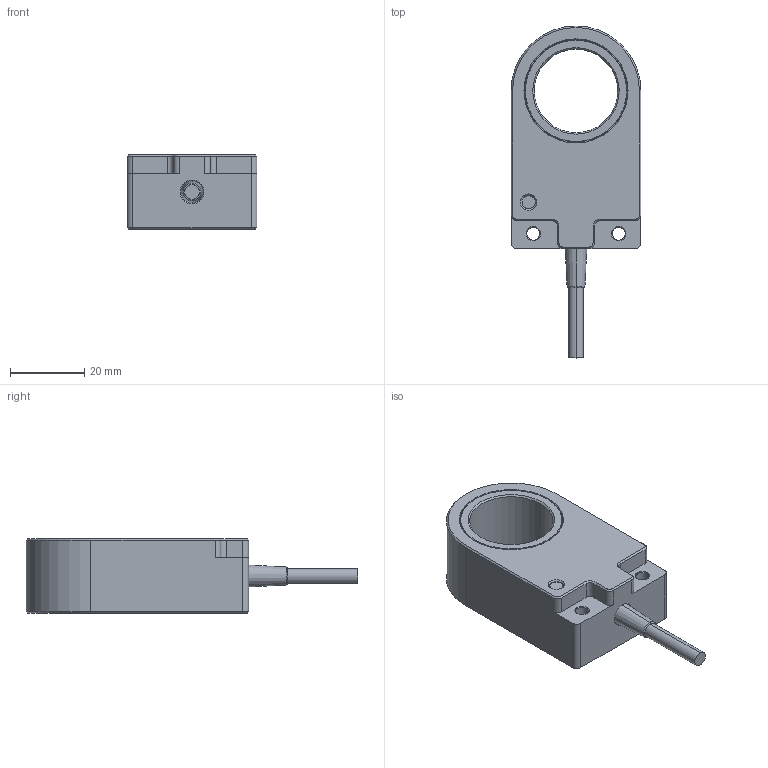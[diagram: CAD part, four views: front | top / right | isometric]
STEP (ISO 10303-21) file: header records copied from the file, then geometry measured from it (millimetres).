
FILE_DESCRIPTION (( 'STEP AP203' ), '1' );
FILE_NAME ('TH21.STEP', '2016-06-30T08:07:59', ( '' ), ( '' ), 'SwSTEP 2.0', 'SolidWorks 2013', '' );
FILE_SCHEMA (( 'CONFIG_CONTROL_DESIGN' ));
Length unit declared in the file: millimetre
Products named in the file (1): TH21
Bounding box: 35 x 89.5 x 20 mm (x, y, z)
Volume: 30574.5 mm3; surface area: 9065.4 mm2
Topology: 2 solids, 2 shells, 104 faces, 228 edges, 140 vertices
Faces by surface type: cylinder 37, plane 37, cone 28, torus 2
Entity records: 2941 total; most frequent: DIRECTION 548, CARTESIAN_POINT 473, ORIENTED_EDGE 456, EDGE_CURVE 228, AXIS2_PLACEMENT_3D 215, VERTEX_POINT 140, EDGE_LOOP 122, VECTOR 118
